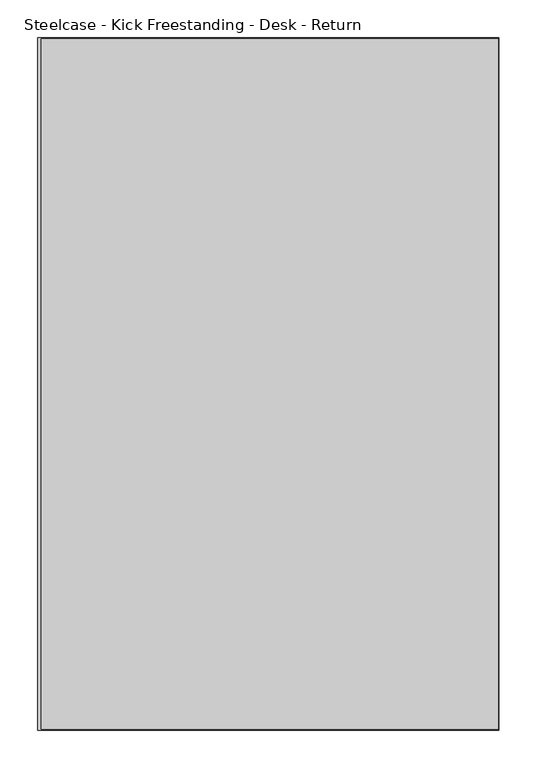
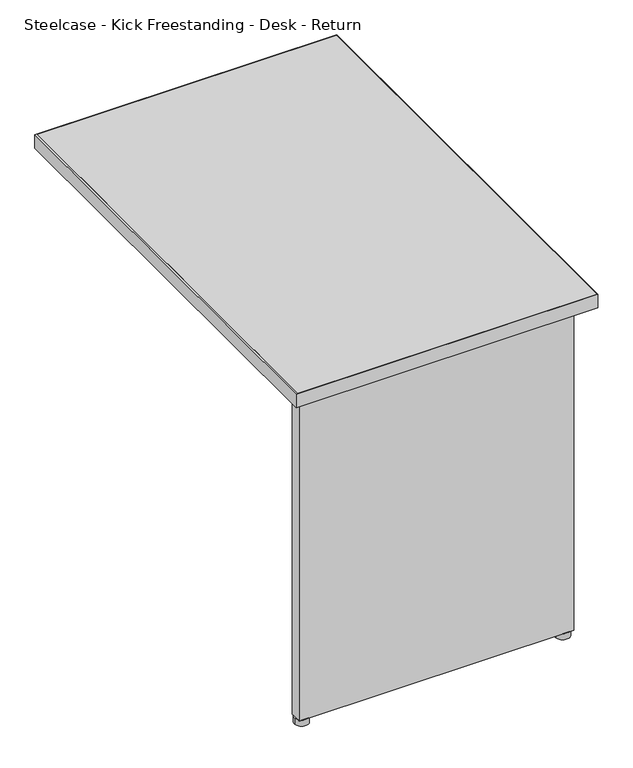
"""IFC4 building model written with IfcOpenShell, lengths in millimetres: furniture geometry, Steelcase - Kick Freestanding - Desk - Return : 24D X 36W - Right."""

from ifc_helpers import new_model, si_unit, point, frame, frame_2d, origin, origin_with_axes, place, context, project, spatial, polyline, circle_curve, trimmed, segment, composite_curve, outline, extrude, source, transform, mapped, element, save


def steelcase_kick_freestanding_desk_return_edffa66e(model_context):
    return source(origin(), model_context, "Body", "SweptSolid", [
        extrude(outline(composite_curve([segment(trimmed(circle_curve(frame_2d((2107.4714425, -1435.8145152)), 13.97), [point((2121.4414425, -1435.8145152))], [point((2093.5014425, -1435.8145152))], False, "CARTESIAN"), True, "CONTINUOUS"), segment(trimmed(circle_curve(frame_2d((2107.4714425, -1435.8145152)), 13.97), [point((2093.5014425, -1435.8145152))], [point((2121.4414425, -1435.8145152))], False, "CARTESIAN"), True, "CONTINUOUS")], self_intersect=False)), origin_with_axes(), (0.0, 0.0, 1.0), 12.7),
        extrude(outline(composite_curve([segment(trimmed(circle_curve(frame_2d((1579.6594425, -1435.8145152)), 13.97), [point((1593.6294425, -1435.8145152))], [point((1565.6894425, -1435.8145152))], False, "CARTESIAN"), True, "CONTINUOUS"), segment(trimmed(circle_curve(frame_2d((1579.6594425, -1435.8145152)), 13.97), [point((1565.6894425, -1435.8145152))], [point((1593.6294425, -1435.8145152))], False, "CARTESIAN"), True, "CONTINUOUS")], self_intersect=False)), origin_with_axes(), (0.0, 0.0, 1.0), 12.7),
        extrude(outline(polyline([(2122.7114425, -1423.2669152), (2122.7114425, -1447.7525098), (1568.2294473, -1447.7525098), (1568.2294473, -1423.2669041), (1691.2670317, -1423.2669041), (1691.2670317, -1445.6951136), (1790.9874347, -1445.6951136), (1790.9874347, -1423.2669041), (1899.7248382, -1423.2669041), (1899.7248382, -1445.6951136), (1999.4452412, -1445.6951136), (1999.4452412, -1423.2669152), (2122.7114425, -1423.2669152)])), frame((0.0, 0.0, 12.7), z_axis=(0.0, 0.0, 1.0), x_axis=(1.0, 0.0, 0.0)), (0.0, 0.0, 1.0), 682.244),
        extrude(outline(polyline([(1558.5012257, -548.0845152), (2162.8688425, -548.0845152), (2162.8688425, -1459.9445152), (1558.5012257, -1459.9445152), (1558.5012257, -548.0845152)])), frame((0.0, 0.0, 694.944), z_axis=(0.0, 0.0, 1.0), x_axis=(1.0, 0.0, 0.0)), (0.0, 0.0, 1.0), 28.956),
        extrude(outline(polyline([(1554.2594425, -546.8145152), (2163.8594425, -546.8145152), (2163.8594425, -1461.2145152), (1554.2594425, -1461.2145152), (1554.2594425, -546.8145152)]), holes=[polyline([(1558.5012257, -548.0845152), (1558.5012257, -1459.9445152), (2162.8688425, -1459.9445152), (2162.8688425, -548.0845152), (1558.5012257, -548.0845152)])]), frame((0.0, 0.0, 694.944), z_axis=(0.0, 0.0, 1.0), x_axis=(1.0, 0.0, 0.0)), (0.0, 0.0, 1.0), 28.956),
    ])


if __name__ == "__main__":
    model = new_model("IFC4")
    model_context = context("Model", 3, world=origin())
    ifc_project = project(units=[si_unit("LENGTHUNIT", "METRE", prefix="MILLI")], contexts=[model_context])
    site = spatial("IfcSite", under=ifc_project)
    building = spatial("IfcBuilding", under=site)
    placement = place(None, origin())
    steelcase_kick_freestanding_desk_return_shape = steelcase_kick_freestanding_desk_return_edffa66e(model_context)
    element("IfcFurniture", 1, ObjectType="Steelcase - Kick Freestanding - Desk - Return : 24D X 36W - Right", at=placement, inside=building, context=model_context, shape_type="MappedRepresentation", body=[
        mapped(steelcase_kick_freestanding_desk_return_shape, transform((0.0, 0.0, 0.0), x_axis=(1.0, 0.0, 0.0), y_axis=(0.0, 1.0, 0.0), z_axis=(0.0, 0.0, 1.0))),
    ])
    save(model, "model.ifc")
